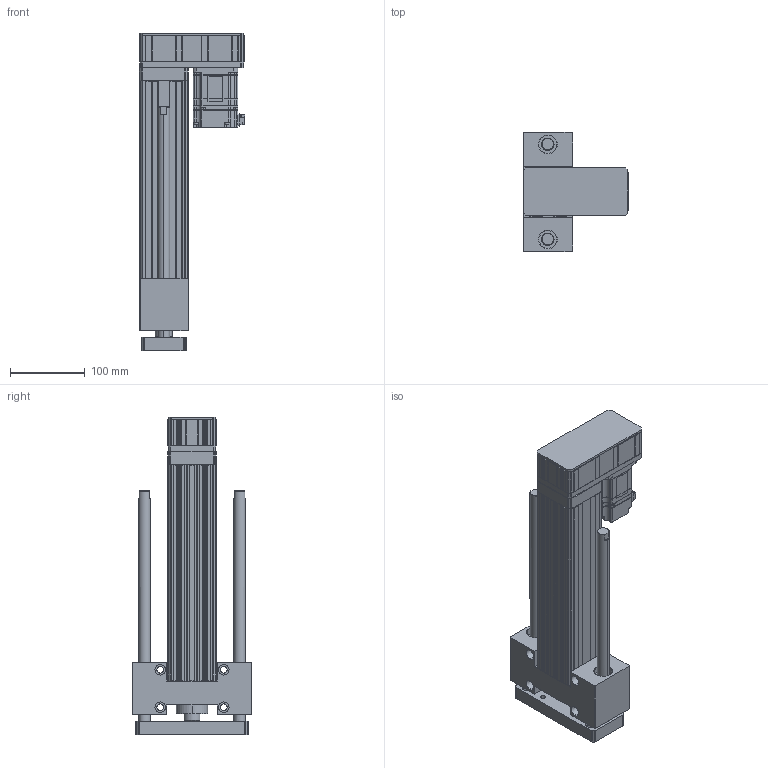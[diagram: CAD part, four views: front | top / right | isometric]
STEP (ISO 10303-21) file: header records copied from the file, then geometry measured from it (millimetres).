
FILE_DESCRIPTION (( 'STEP AP203' ), '1' );
FILE_NAME ('ANS065-HP200-05(10)-W20.STEP', '2019-03-01T05:44:14', ( 'user' ), ( '' ), 'SwSTEP 2.0', 'SolidWorks 2013', '' );
FILE_SCHEMA (( 'CONFIG_CONTROL_DESIGN' ));
Length unit declared in the file: millimetre
Products named in the file (4): ANS065 HP200 VER2; ANS065 ROD ST200 G; sgmjv_02a_a21; ANS065-HP200-05(10)-W20
Assembly tree (3 placements, depth 2):
  ANS065-HP200-05(10)-W20
    ANS065 HP200 VER2
    ANS065 ROD ST200 G
    sgmjv_02a_a21
Bounding box: 140.3 x 160 x 424.5 mm (x, y, z)
Volume: 1879630.8 mm3; surface area: 437734.2 mm2
Topology: 3 solids, 7 shells, 1458 faces, 3875 edges, 2502 vertices
Faces by surface type: plane 896, cylinder 452, cone 110
Entity records: 45387 total; most frequent: CARTESIAN_POINT 8127, ORIENTED_EDGE 7710, DIRECTION 7657, EDGE_CURVE 3855, VECTOR 2793, LINE 2793, VERTEX_POINT 2502, AXIS2_PLACEMENT_3D 2432
